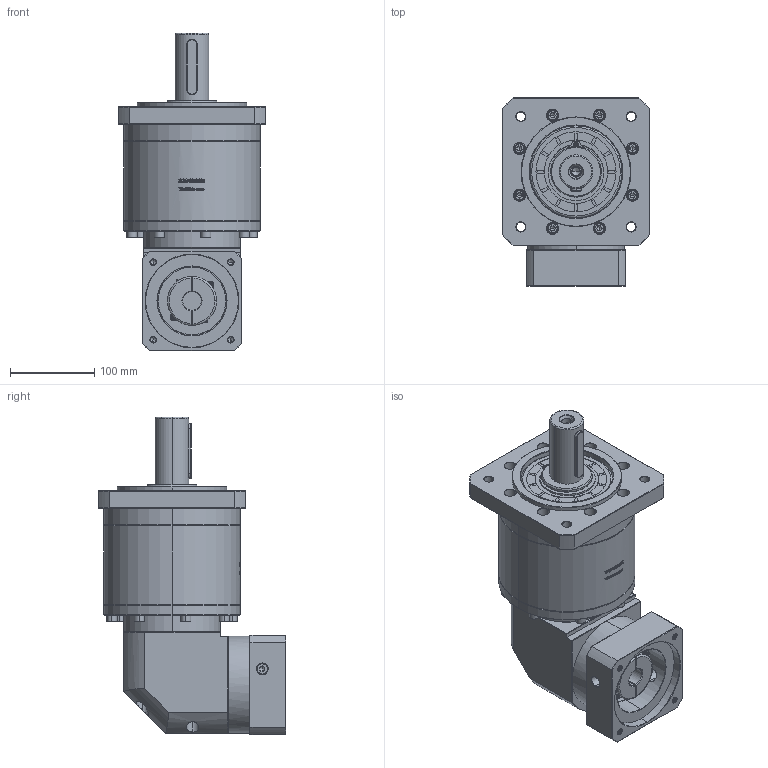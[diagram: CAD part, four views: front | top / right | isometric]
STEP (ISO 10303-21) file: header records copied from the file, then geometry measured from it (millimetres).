
FILE_DESCRIPTION (( 'STEP AP214' ), '1' );
FILE_NAME ('ZFR160A-D40-L3-22-110-130-M8.step', '2023-03-25T01:56:46', ( '' ), ( '' ), 'SwSTEP 2.0', 'SolidWorks 2016', '' );
FILE_SCHEMA (( 'AUTOMOTIVE_DESIGN' ));
Length unit declared in the file: millimetre
Products named in the file (1): ZFR160A-D40-L3-22-110-130-M8
Bounding box: 175 x 222.4 x 376.2 mm (x, y, z)
Volume: 5620348.4 mm3; surface area: 359885.5 mm2
Topology: 6 solids, 6 shells, 2784 faces, 7250 edges, 4639 vertices
Faces by surface type: plane 1373, bspline 498, cylinder 496, cone 371, torus 46
Entity records: 150069 total; most frequent: CARTESIAN_POINT 55567, ORIENTED_EDGE 14392, DIRECTION 11366, EDGE_CURVE 7196, VERTEX_POINT 4639, LINE 4502, VECTOR 4502, AXIS2_PLACEMENT_3D 3432
